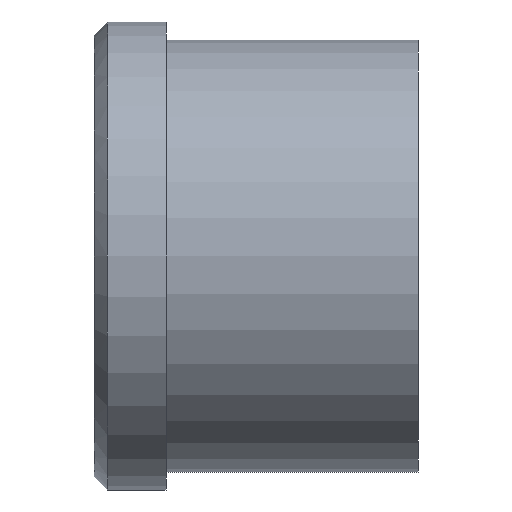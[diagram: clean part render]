
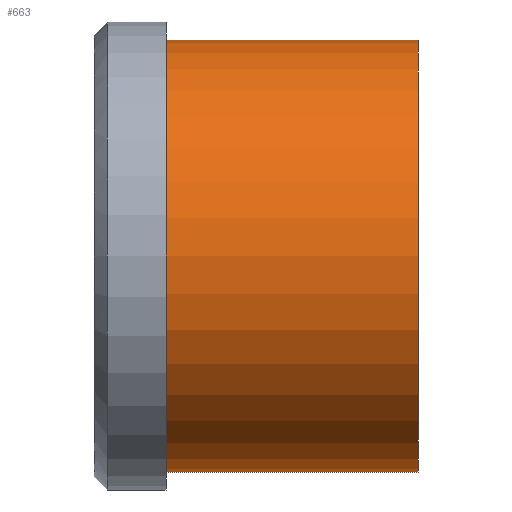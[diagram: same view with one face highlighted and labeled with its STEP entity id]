
A CAD part, front view. The second image highlights one B-rep face of the part: STEP entity #663.
In plain terms, the highlighted cylindrical face has radius 24 mm (diameter 48 mm), a partial arc.
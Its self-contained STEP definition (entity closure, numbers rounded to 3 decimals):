
#501=CARTESIAN_POINT('Vertex',(0.,0.,-24.)) ;
#506=CARTESIAN_POINT('Axis2P3D Location',(0.,0.,0.)) ;
#510=CARTESIAN_POINT('Vertex',(0.,-24.,0.)) ;
#513=CARTESIAN_POINT('Axis2P3D Location',(0.,0.,0.)) ;
#517=CARTESIAN_POINT('Vertex',(0.,0.,24.)) ;
#603=CARTESIAN_POINT('Line Origine',(28.,0.,24.)) ;
#607=CARTESIAN_POINT('Vertex',(28.,0.,24.)) ;
#621=CARTESIAN_POINT('Vertex',(28.,0.,-24.)) ;
#624=CARTESIAN_POINT('Line Origine',(28.,0.,-24.)) ;
#638=CARTESIAN_POINT('Axis2P3D Location',(28.,0.,0.)) ;
#643=CARTESIAN_POINT('Axis2P3D Location',(28.,0.,0.)) ;
#647=CARTESIAN_POINT('Vertex',(28.,-24.,0.)) ;
#650=CARTESIAN_POINT('Axis2P3D Location',(28.,0.,0.)) ;
#507=DIRECTION('Axis2P3D Direction',(1.,0.,-0.)) ;
#514=DIRECTION('Axis2P3D Direction',(1.,0.,-0.)) ;
#604=DIRECTION('Vector Direction',(-1.,0.,0.)) ;
#625=DIRECTION('Vector Direction',(-1.,0.,0.)) ;
#639=DIRECTION('Axis2P3D Direction',(-1.,-0.,-0.)) ;
#640=DIRECTION('Axis2P3D XDirection',(0.,0.,-1.)) ;
#644=DIRECTION('Axis2P3D Direction',(-1.,-0.,-0.)) ;
#651=DIRECTION('Axis2P3D Direction',(-1.,-0.,-0.)) ;
#508=AXIS2_PLACEMENT_3D('Circle Axis2P3D',#506,#507,$) ;
#515=AXIS2_PLACEMENT_3D('Circle Axis2P3D',#513,#514,$) ;
#641=AXIS2_PLACEMENT_3D('Cylinder Axis2P3D',#638,#639,#640) ;
#645=AXIS2_PLACEMENT_3D('Circle Axis2P3D',#643,#644,$) ;
#652=AXIS2_PLACEMENT_3D('Circle Axis2P3D',#650,#651,$) ;
#656=ORIENTED_EDGE('',*,*,#628,.T.) ;
#657=ORIENTED_EDGE('',*,*,#649,.F.) ;
#658=ORIENTED_EDGE('',*,*,#654,.F.) ;
#659=ORIENTED_EDGE('',*,*,#609,.T.) ;
#660=ORIENTED_EDGE('',*,*,#519,.T.) ;
#661=ORIENTED_EDGE('',*,*,#512,.T.) ;
#605=VECTOR('Line Direction',#604,1.) ;
#626=VECTOR('Line Direction',#625,1.) ;
#663=ADVANCED_FACE('353-40X36',(#662),#642,.T.) ;
#509=CIRCLE('generated circle',#508,24.) ;
#516=CIRCLE('generated circle',#515,24.) ;
#646=CIRCLE('generated circle',#645,24.) ;
#653=CIRCLE('generated circle',#652,24.) ;
#642=CYLINDRICAL_SURFACE('generated cylinder',#641,24.) ;
#512=EDGE_CURVE('',#511,#502,#509,.T.) ;
#519=EDGE_CURVE('',#518,#511,#516,.T.) ;
#609=EDGE_CURVE('',#608,#518,#606,.T.) ;
#628=EDGE_CURVE('',#502,#622,#627,.F.) ;
#649=EDGE_CURVE('',#648,#622,#646,.F.) ;
#654=EDGE_CURVE('',#608,#648,#653,.F.) ;
#655=EDGE_LOOP('',(#656,#657,#658,#659,#660,#661)) ;
#662=FACE_OUTER_BOUND('',#655,.T.) ;
#606=LINE('Line',#603,#605) ;
#627=LINE('Line',#624,#626) ;
#502=VERTEX_POINT('',#501) ;
#511=VERTEX_POINT('',#510) ;
#518=VERTEX_POINT('',#517) ;
#608=VERTEX_POINT('',#607) ;
#622=VERTEX_POINT('',#621) ;
#648=VERTEX_POINT('',#647) ;
